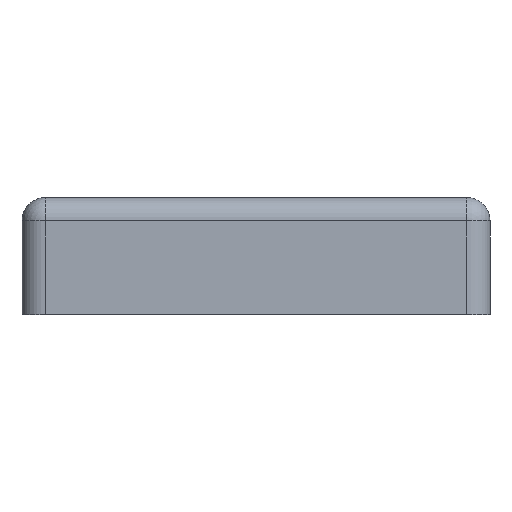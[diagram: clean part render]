
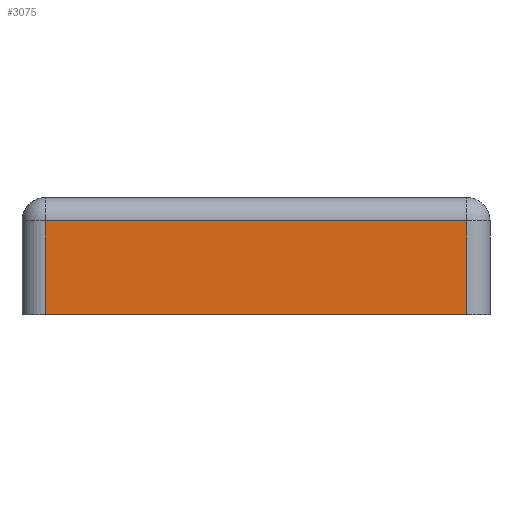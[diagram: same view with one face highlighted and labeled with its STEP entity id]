
A CAD part, left-side view. The second image highlights one B-rep face of the part: STEP entity #3075.
In plain terms, the highlighted planar face has unit normal (-1, 0, 0).
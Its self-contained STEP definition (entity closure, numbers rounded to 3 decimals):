
#616=DIRECTION('',(0.,0.,-1.));
#617=VECTOR('',#616,4.);
#618=CARTESIAN_POINT('',(-10.,9.,4.));
#619=LINE('',#618,#617);
#624=DIRECTION('',(0.,1.,0.));
#625=VECTOR('',#624,18.);
#626=CARTESIAN_POINT('',(-10.,-9.,0.));
#627=LINE('',#626,#625);
#632=DIRECTION('',(0.,1.,0.));
#633=VECTOR('',#632,18.);
#634=CARTESIAN_POINT('',(-10.,-9.,4.));
#635=LINE('',#634,#633);
#655=DIRECTION('',(0.,0.,1.));
#656=VECTOR('',#655,4.);
#657=CARTESIAN_POINT('',(-10.,-9.,0.));
#658=LINE('',#657,#656);
#2174=CARTESIAN_POINT('',(-10.,9.,0.));
#2175=VERTEX_POINT('',#2174);
#2176=CARTESIAN_POINT('',(-10.,-9.,0.));
#2177=VERTEX_POINT('',#2176);
#2228=CARTESIAN_POINT('',(-10.,9.,4.));
#2229=VERTEX_POINT('',#2228);
#2230=CARTESIAN_POINT('',(-10.,-9.,4.));
#2231=VERTEX_POINT('',#2230);
#3061=CARTESIAN_POINT('',(-10.,10.,0.));
#3062=DIRECTION('',(-1.,0.,0.));
#3063=DIRECTION('',(0.,-1.,0.));
#3064=AXIS2_PLACEMENT_3D('',#3061,#3062,#3063);
#3065=PLANE('',#3064);
#3067=ORIENTED_EDGE('',*,*,#3066,.F.);
#3069=ORIENTED_EDGE('',*,*,#3068,.F.);
#3071=ORIENTED_EDGE('',*,*,#3070,.T.);
#3072=ORIENTED_EDGE('',*,*,#3053,.F.);
#3073=EDGE_LOOP('',(#3067,#3069,#3071,#3072));
#3074=FACE_OUTER_BOUND('',#3073,.F.);
#3075=ADVANCED_FACE('',(#3074),#3065,.T.);
#3053=EDGE_CURVE('',#2229,#2175,#619,.T.);
#3066=EDGE_CURVE('',#2231,#2229,#635,.T.);
#3068=EDGE_CURVE('',#2177,#2231,#658,.T.);
#3070=EDGE_CURVE('',#2177,#2175,#627,.T.);
